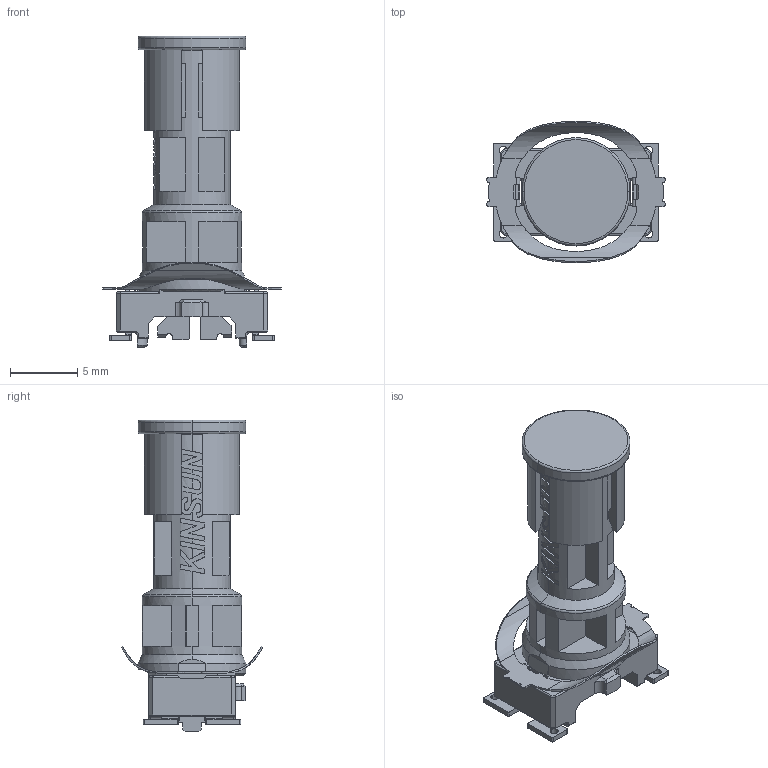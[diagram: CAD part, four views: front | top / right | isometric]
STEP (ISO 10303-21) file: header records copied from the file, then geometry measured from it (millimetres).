
FILE_DESCRIPTION((''),'2;1');
FILE_NAME('229B-02MS01_C_1_ASM','2026-05-21T',('fros.liao'),(''),'CREO PARAMETRIC BY PTC INC, 2018360','CREO PARAMETRIC BY PTC INC, 2018360','');
FILE_SCHEMA(('CONFIG_CONTROL_DESIGN'));
Length unit declared in the file: millimetre
Products named in the file (3): 229B-02MS01; CAP; 229B-02MS01_C_1_ASM
Assembly tree (2 placements, depth 2):
  229B-02MS01_C_1_ASM
    229B-02MS01
    CAP
Bounding box: 13.2 x 10.49 x 23.1 mm (x, y, z)
Volume: 648 mm3; surface area: 1533.4 mm2
Topology: 2 solids, 2 shells, 852 faces, 2276 edges, 1437 vertices
Faces by surface type: plane 541, cylinder 212, cone 35, torus 30, extrusion 20, bspline 14
Entity records: 28172 total; most frequent: CARTESIAN_POINT 7048, ORIENTED_EDGE 4552, DIRECTION 4125, EDGE_CURVE 2276, VECTOR 1611, LINE 1591, VERTEX_POINT 1437, AXIS2_PLACEMENT_3D 1257
